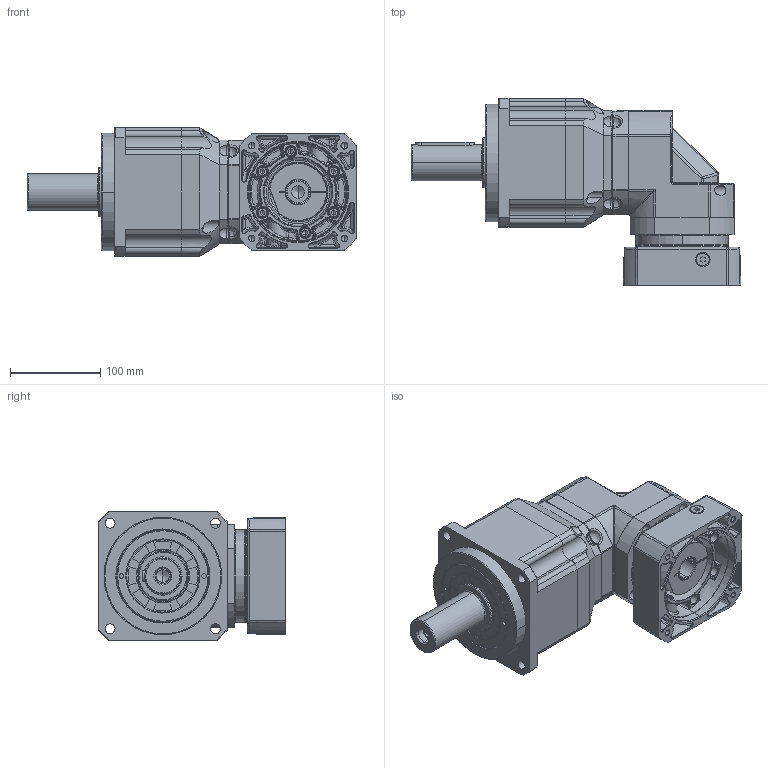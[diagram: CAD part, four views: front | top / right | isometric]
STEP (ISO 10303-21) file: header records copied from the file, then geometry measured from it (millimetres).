
FILE_DESCRIPTION (( 'STEP AP214' ), '1' );
FILE_NAME ('PAR142-L2-S2-P1 24-110-145-M8-64.STEP', '2025-02-15T06:41:01', ( '微软用户' ), ( '微软中国' ), 'SwSTEP 2.0', 'SolidWorks 2021', '' );
FILE_SCHEMA (( 'AUTOMOTIVE_DESIGN' ));
Length unit declared in the file: millimetre
Products named in the file (4): PAR2D-L2-S1-10-110-145-M8-64.STEP; 12-PAR115F_________stp.stp.STEP; PAR142-L2-S2-P1 24-110-145-M8-64; PAR142D-L2-S2-24-110-145-M8-64.STEP
Assembly tree (4 placements, depth 2):
  PAR142-L2-S2-P1 24-110-145-M8-64
    PAR142D-L2-S2-24-110-145-M8-64.STEP
    12-PAR115F_________stp.stp.STEP
    PAR2D-L2-S1-10-110-145-M8-64.STEP  x2
Bounding box: 364.5 x 206.5 x 142 mm (x, y, z)
Volume: 469170.9 mm3; surface area: 513636.5 mm2
Topology: 1 solids, 41 shells, 2123 faces, 5053 edges, 3015 vertices
Faces by surface type: bspline 755, cylinder 519, plane 510, cone 337, torus 2
Entity records: 165140 total; most frequent: CARTESIAN_POINT 123086, ORIENTED_EDGE 9657, DIRECTION 7064, EDGE_CURVE 4876, VERTEX_POINT 2975, AXIS2_PLACEMENT_3D 2813, EDGE_LOOP 2294, ADVANCED_FACE 2099
